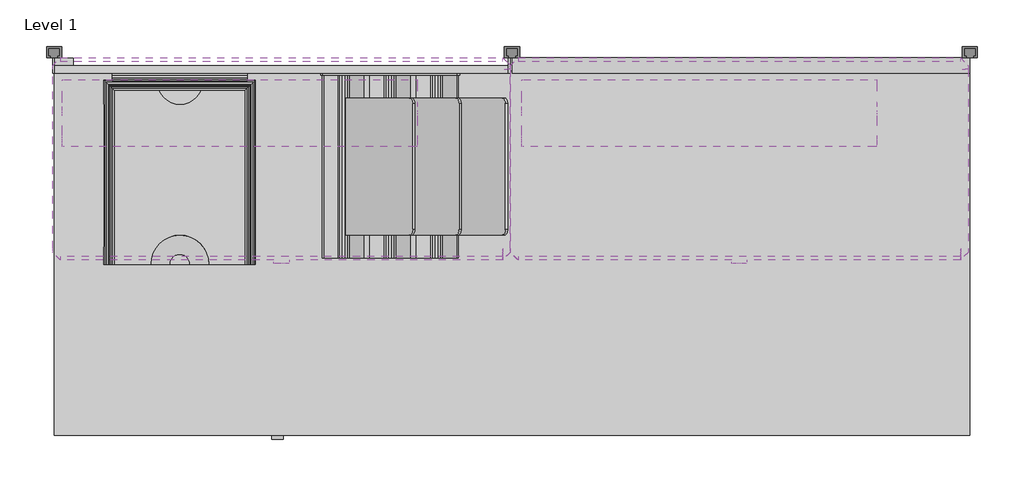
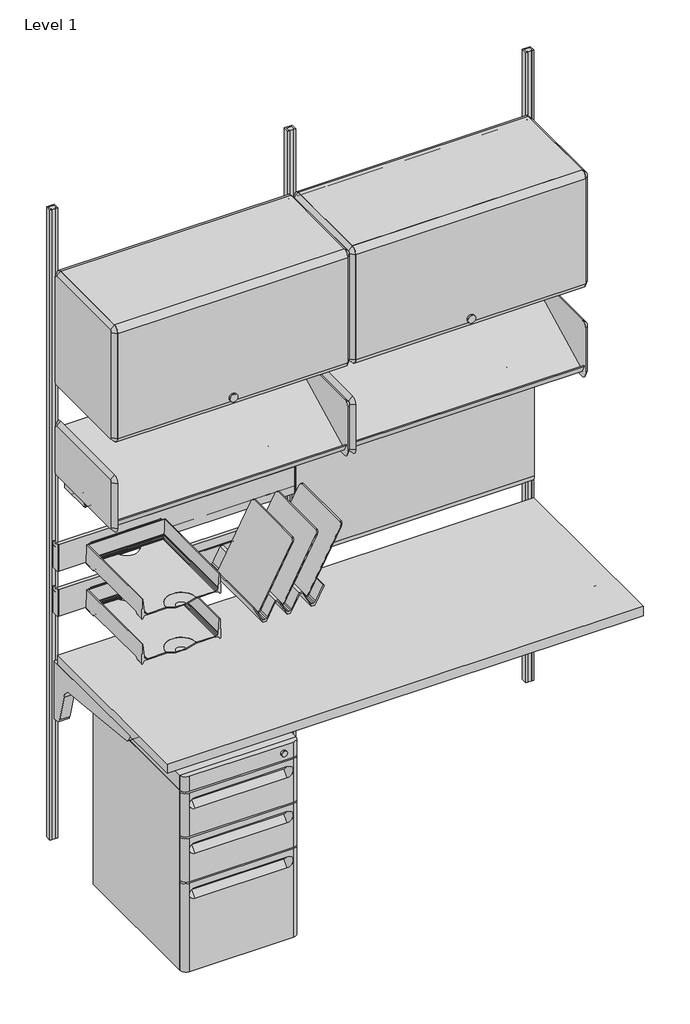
# One storey, incomplete: 15 furniture elements, 2 light fixtures.
"""IFC4 building model written with IfcOpenShell, lengths in millimetres."""

from ifc_helpers import new_model, si_unit, origin, place, context, project, spatial, transform, mapped, element, save
from components import furniture_7da167ec, furniture_ba537c3b, furniture_494cc3b8, furniture_f058e72c, furniture_cd2e4540, furniture_02a821be, furniture_e3423f84, furniture_0d5b5ade, furniture_a96273da, furniture_f03510d4, furniture_ea425779, light_fixture_b5f3cc62

model = new_model("IFC4")

# Units and contexts
model_context = context("Model", 3, world=origin())
ifc_project = project(units=[si_unit("LENGTHUNIT", "METRE", prefix="MILLI")], contexts=[model_context])

# Site, building, storey
site = spatial("IfcSite", under=ifc_project)
building = spatial("IfcBuilding", under=site)
storey = spatial("IfcBuildingStorey", under=building, Name="Level 1", Elevation=0.0)

# Furniture
placement = place(None, origin())
furniture_shape = furniture_7da167ec(model_context)
element("IfcFurniture", 1, ObjectType="HermanMiller_Quadrant_G5110_B-PullFreestandingPedestal : 26-1/2\"H x 20\"D x 15\"W BBF", at=placement, inside=storey, context=model_context, shape_type="MappedRepresentation", body=[
    mapped(furniture_shape, transform((237.01502, -398.4625, 0.0), x_axis=(1.0, 0.0, 0.0), y_axis=(0.0, 1.0, 0.0), z_axis=(0.0, 0.0, 1.0))),
])
furniture_2_shape = furniture_ba537c3b(model_context)
element("IfcFurniture", 2, ObjectType="HermanMiller_ThrivePortfolio_Y7216_PaperTray : 3\"H x 12\"D x 10\"W", at=placement, inside=storey, context=model_context, shape_type="MappedRepresentation", body=[
    mapped(furniture_2_shape, transform((208.9404, -209.0405855, 0.0), x_axis=(1.0, 0.0, 0.0), y_axis=(0.0, 1.0, 0.0), z_axis=(0.0, 0.0, 1.0))),
])
furniture_3_shape = furniture_494cc3b8(model_context)
element("IfcFurniture", 3, ObjectType="HermanMiller_ThrivePortfolio_Y7218_DiagonalTray : 8 1/2\"H x 12\"D x 13\"W", at=placement, inside=storey, context=model_context, shape_type="MappedRepresentation", body=[
    mapped(furniture_3_shape, transform((559.483017, -198.3613, 0.0), x_axis=(1.0, 0.0, 0.0), y_axis=(0.0, 1.0, 0.0), z_axis=(0.0, 0.0, 1.0))),
])
furniture_4_shape = furniture_f058e72c(model_context)
element("IfcFurniture", 4, ObjectType="HermanMiller_ThrivePortfolio_Y7216_PaperTray : 3\"H x 12\"D x 10\"W", at=placement, inside=storey, context=model_context, shape_type="MappedRepresentation", body=[
    mapped(furniture_4_shape, transform((208.9404, -209.0405855, 0.0), x_axis=(1.0, 0.0, 0.0), y_axis=(0.0, 1.0, 0.0), z_axis=(0.0, 0.0, 1.0))),
])
furniture_5_shape = furniture_cd2e4540(model_context)
element("IfcFurniture", 5, ObjectType="HermanMiller_ActionOffice_A3610_ToolBar : 4\"H x 30\"W", at=placement, inside=storey, context=model_context, shape_type="MappedRepresentation", body=[
    mapped(furniture_5_shape, transform((378.32538, -31.7499996, 0.0), x_axis=(1.0, 0.0, 0.0), y_axis=(0.0, 1.0, 0.0), z_axis=(0.0, 0.0, 1.0))),
])
furniture_6_shape = furniture_02a821be(model_context)
element("IfcFurniture", 6, ObjectType="HermanMiller_ActionOffice_A3410_B-StyleTackboard : 16\"H x 30\"W", at=placement, inside=storey, context=model_context, shape_type="MappedRepresentation", body=[
    mapped(furniture_6_shape, transform((1143.0, -31.75, 0.0), x_axis=(1.0, 0.0, 0.0), y_axis=(0.0, 1.0, 0.0), z_axis=(0.0, 0.0, 1.0))),
])
furniture_7_shape = furniture_e3423f84(model_context)
element("IfcFurniture", 7, ObjectType="HermanMiller_ActionOffice_A3220_B-StyleStorageDisplay : Display 13\"D x 30\"W", at=placement, inside=storey, context=model_context, shape_type="MappedRepresentation", body=[
    mapped(furniture_7_shape, transform((1264.2673845, -200.025, 0.0), x_axis=(1.0, 0.0, 0.0), y_axis=(0.0, 1.0, 0.0), z_axis=(0.0, 0.0, 1.0))),
])
element("IfcFurniture", 8, ObjectType="HermanMiller_ActionOffice_A3220_B-StyleStorageDisplay : Display 13\"D x 30\"W", at=placement, inside=storey, context=model_context, shape_type="MappedRepresentation", body=[
    mapped(furniture_7_shape, transform((502.2673845, -200.025, 0.0), x_axis=(1.0, 0.0, 0.0), y_axis=(0.0, 1.0, 0.0), z_axis=(0.0, 0.0, 1.0))),
])
furniture_8_shape = furniture_0d5b5ade(model_context)
element("IfcFurniture", 9, ObjectType="HermanMiller_ActionOffice_A3352_B-StyleFlipperDoorUnit : 15 1/2\"H x 13\"D x 30\"W", at=placement, inside=storey, context=model_context, shape_type="MappedRepresentation", body=[
    mapped(furniture_8_shape, transform((1140.32538, -200.025, 0.0), x_axis=(1.0, 0.0, 0.0), y_axis=(0.0, 1.0, 0.0), z_axis=(0.0, 0.0, 1.0))),
])
element("IfcFurniture", 10, ObjectType="HermanMiller_ActionOffice_A3352_B-StyleFlipperDoorUnit : 15 1/2\"H x 13\"D x 30\"W", at=placement, inside=storey, context=model_context, shape_type="MappedRepresentation", body=[
    mapped(furniture_8_shape, transform((378.32538, -200.025, 0.0), x_axis=(1.0, 0.0, 0.0), y_axis=(0.0, 1.0, 0.0), z_axis=(0.0, 0.0, 1.0))),
])
furniture_9_shape = furniture_a96273da(model_context)
element("IfcFurniture", 11, ObjectType="HermanMiller_ActionOffice_A2310_Sq-EdgeRectangularWorkSurface : 24\"D x 60\"W", at=placement, inside=storey, context=model_context, shape_type="MappedRepresentation", body=[
    mapped(furniture_9_shape, transform((762.0, -333.375, 0.0), x_axis=(1.0, 0.0, 0.0), y_axis=(0.0, 1.0, 0.0), z_axis=(0.0, 0.0, 1.0))),
])
furniture_10_shape = furniture_f03510d4(model_context)
element("IfcFurniture", 12, ObjectType="HermanMiller_ActionOffice_A3610_ToolBar : 4\"H x 30\"W", at=placement, inside=storey, context=model_context, shape_type="MappedRepresentation", body=[
    mapped(furniture_10_shape, transform((378.32538, -31.7499996, 0.0), x_axis=(1.0, 0.0, 0.0), y_axis=(0.0, 1.0, 0.0), z_axis=(0.0, 0.0, 1.0))),
])
furniture_11_shape = furniture_ea425779(model_context)
element("IfcFurniture", 13, ObjectType="HermanMiller_ActionOffice_AO213_WallStrip : 84\"H", at=placement, inside=storey, context=model_context, shape_type="MappedRepresentation", body=[
    mapped(furniture_11_shape, transform((1524.0, 0.0, 0.0), x_axis=(1.0, 0.0, 0.0), y_axis=(0.0, 1.0, 0.0), z_axis=(0.0, 0.0, 1.0))),
])
element("IfcFurniture", 14, ObjectType="HermanMiller_ActionOffice_AO213_WallStrip : 84\"H", at=placement, inside=storey, context=model_context, shape_type="MappedRepresentation", body=[
    mapped(furniture_11_shape, transform((762.0, 0.0, 0.0), x_axis=(1.0, 0.0, 0.0), y_axis=(0.0, 1.0, 0.0), z_axis=(0.0, 0.0, 1.0))),
])
element("IfcFurniture", 15, ObjectType="HermanMiller_ActionOffice_AO213_WallStrip : 84\"H", at=placement, inside=storey, context=model_context, shape_type="MappedRepresentation", body=[
    mapped(furniture_11_shape, transform((0.0, 0.0, 0.0), x_axis=(1.0, 0.0, 0.0), y_axis=(0.0, 1.0, 0.0), z_axis=(0.0, 0.0, 1.0))),
])

# Light fixtures
light_fixture_shape = light_fixture_b5f3cc62(model_context)
element("IfcLightFixture", 16, ObjectType="HermanMiller_SupplementalProducts_G6136_UtilityTaskLight : AO Etho Canvas 30W", at=placement, inside=storey, context=model_context, shape_type="MappedRepresentation", body=[
    mapped(light_fixture_shape, transform((1073.531, -111.125, 0.0), x_axis=(1.0, 0.0, 0.0), y_axis=(0.0, 1.0, 0.0), z_axis=(0.0, 0.0, 1.0))),
])
element("IfcLightFixture", 17, ObjectType="HermanMiller_SupplementalProducts_G6136_UtilityTaskLight : AO Etho Canvas 30W", at=placement, inside=storey, context=model_context, shape_type="MappedRepresentation", body=[
    mapped(light_fixture_shape, transform((308.85638, -111.125, 0.0), x_axis=(1.0, 0.0, 0.0), y_axis=(0.0, 1.0, 0.0), z_axis=(0.0, 0.0, 1.0))),
])

save(model, "model.ifc")
